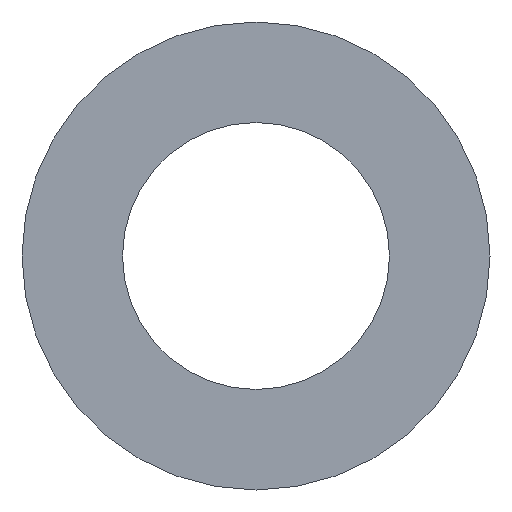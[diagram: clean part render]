
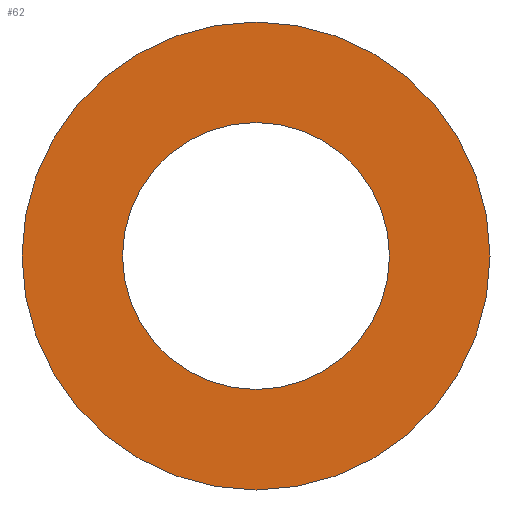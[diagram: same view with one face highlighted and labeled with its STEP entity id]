
A CAD part, front view. The second image highlights one B-rep face of the part: STEP entity #62.
In plain terms, the highlighted planar face has unit normal (0, -1, 0).
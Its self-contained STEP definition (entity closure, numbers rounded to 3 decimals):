
#20=PLANE('',#83);
#26=ORIENTED_EDGE('',*,*,#30,.T.);
#27=ORIENTED_EDGE('',*,*,#32,.F.);
#30=EDGE_CURVE('',#34,#34,#38,.T.);
#32=EDGE_CURVE('',#36,#36,#40,.T.);
#34=VERTEX_POINT('',#106);
#36=VERTEX_POINT('',#111);
#38=CIRCLE('',#78,40.5);
#40=CIRCLE('',#81,71.);
#46=EDGE_LOOP('',(#26));
#47=EDGE_LOOP('',(#27));
#54=FACE_BOUND('',#46,.T.);
#55=FACE_BOUND('',#47,.T.);
#62=ADVANCED_FACE('',(#54,#55),#20,.F.);
#78=AXIS2_PLACEMENT_3D('',#105,#89,#90);
#81=AXIS2_PLACEMENT_3D('',#110,#95,#96);
#83=AXIS2_PLACEMENT_3D('',#114,#99,#100);
#89=DIRECTION('',(0.,1.,0.));
#90=DIRECTION('',(1.,0.,0.));
#95=DIRECTION('',(0.,1.,0.));
#96=DIRECTION('',(1.,0.,0.));
#99=DIRECTION('',(0.,1.,0.));
#100=DIRECTION('',(0.,0.,1.));
#105=CARTESIAN_POINT('',(0.,-1.5,0.));
#106=CARTESIAN_POINT('',(40.5,-1.5,0.));
#110=CARTESIAN_POINT('',(0.,-1.5,0.));
#111=CARTESIAN_POINT('',(71.,-1.5,0.));
#114=CARTESIAN_POINT('',(0.,-1.5,0.));
